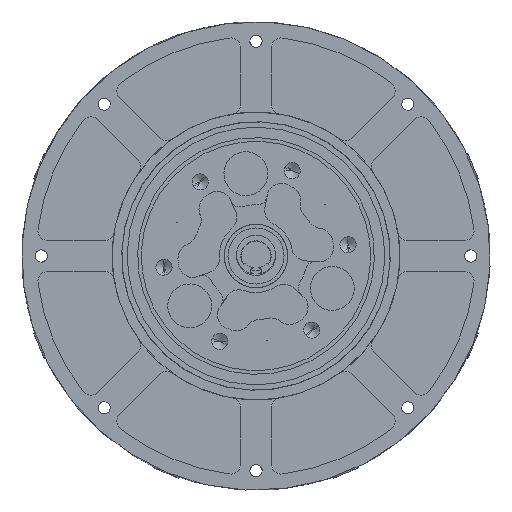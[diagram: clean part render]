
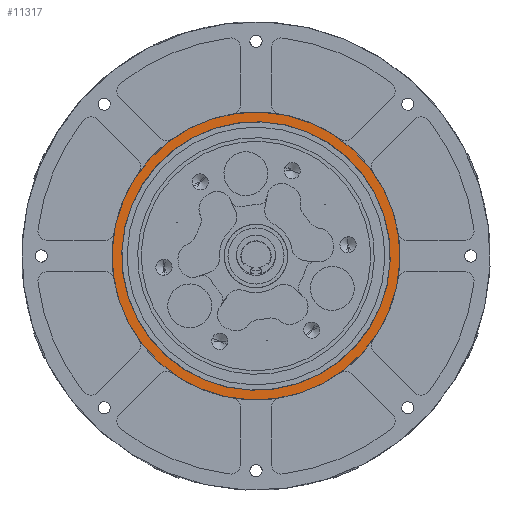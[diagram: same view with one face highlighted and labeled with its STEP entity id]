
A CAD part, front view. The second image highlights one B-rep face of the part: STEP entity #11317.
In plain terms, the highlighted planar face has unit normal (0, -1, 0).
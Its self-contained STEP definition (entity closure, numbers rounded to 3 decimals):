
#2493 = DIRECTION ( 'NONE',  ( 0., -1., 0. ) ) ;
#5148 = AXIS2_PLACEMENT_3D ( 'NONE', #58136, #24460, #24763 ) ;
#5400 = FACE_OUTER_BOUND ( 'NONE', #38048, .T. ) ;
#5997 = AXIS2_PLACEMENT_3D ( 'NONE', #24778, #20950, #17424 ) ;
#6329 = CIRCLE ( 'NONE', #36727, 27.5 ) ;
#7401 = DIRECTION ( 'NONE',  ( 0., 0., -1. ) ) ;
#7450 = CARTESIAN_POINT ( 'NONE',  ( 0., -1.3, -29.5 ) ) ;
#8482 = AXIS2_PLACEMENT_3D ( 'NONE', #22300, #36908, #7401 ) ;
#8824 = EDGE_CURVE ( 'NONE', #32321, #39474, #35395, .T. ) ;
#11317 = ADVANCED_FACE ( 'NONE', ( #48945, #5400 ), #38758, .T. ) ;
#13485 = ORIENTED_EDGE ( 'NONE', *, *, #8824, .F. ) ;
#14609 = ORIENTED_EDGE ( 'NONE', *, *, #56310, .T. ) ;
#17424 = DIRECTION ( 'NONE',  ( 0., 0., -1. ) ) ;
#20950 = DIRECTION ( 'NONE',  ( 0., -1., 0. ) ) ;
#22300 = CARTESIAN_POINT ( 'NONE',  ( 0., -1.3, 0. ) ) ;
#24215 = EDGE_CURVE ( 'NONE', #49693, #51732, #37915, .T. ) ;
#24460 = DIRECTION ( 'NONE',  ( 0., -1., 0. ) ) ;
#24763 = DIRECTION ( 'NONE',  ( 0., 0., -1. ) ) ;
#24778 = CARTESIAN_POINT ( 'NONE',  ( 0., -1.3, 0. ) ) ;
#25676 = ORIENTED_EDGE ( 'NONE', *, *, #24215, .T. ) ;
#29480 = AXIS2_PLACEMENT_3D ( 'NONE', #36359, #35406, #49746 ) ;
#32321 = VERTEX_POINT ( 'NONE', #49863 ) ;
#32464 = EDGE_CURVE ( 'NONE', #39474, #32321, #6329, .T. ) ;
#33207 = CARTESIAN_POINT ( 'NONE',  ( 0., -1.3, -27.5 ) ) ;
#33474 = CARTESIAN_POINT ( 'NONE',  ( 0., -1.3, 29.5 ) ) ;
#35395 = CIRCLE ( 'NONE', #5997, 27.5 ) ;
#35406 = DIRECTION ( 'NONE',  ( 0., -1., 0. ) ) ;
#36359 = CARTESIAN_POINT ( 'NONE',  ( 0., -1.3, 0. ) ) ;
#36727 = AXIS2_PLACEMENT_3D ( 'NONE', #41273, #2493, #55568 ) ;
#36908 = DIRECTION ( 'NONE',  ( 0., -1., 0. ) ) ;
#37915 = CIRCLE ( 'NONE', #8482, 29.5 ) ;
#38048 = EDGE_LOOP ( 'NONE', ( #14609, #25676 ) ) ;
#38758 = PLANE ( 'NONE',  #5148 ) ;
#39464 = ORIENTED_EDGE ( 'NONE', *, *, #32464, .F. ) ;
#39474 = VERTEX_POINT ( 'NONE', #33207 ) ;
#41273 = CARTESIAN_POINT ( 'NONE',  ( 0., -1.3, 0. ) ) ;
#48302 = EDGE_LOOP ( 'NONE', ( #39464, #13485 ) ) ;
#48945 = FACE_BOUND ( 'NONE', #48302, .T. ) ;
#49693 = VERTEX_POINT ( 'NONE', #7450 ) ;
#49746 = DIRECTION ( 'NONE',  ( 0., 0., -1. ) ) ;
#49863 = CARTESIAN_POINT ( 'NONE',  ( 0., -1.3, 27.5 ) ) ;
#51732 = VERTEX_POINT ( 'NONE', #33474 ) ;
#51819 = CIRCLE ( 'NONE', #29480, 29.5 ) ;
#55568 = DIRECTION ( 'NONE',  ( 0., 0., -1. ) ) ;
#56310 = EDGE_CURVE ( 'NONE', #51732, #49693, #51819, .T. ) ;
#58136 = CARTESIAN_POINT ( 'NONE',  ( 0., -1.3, 0. ) ) ;
